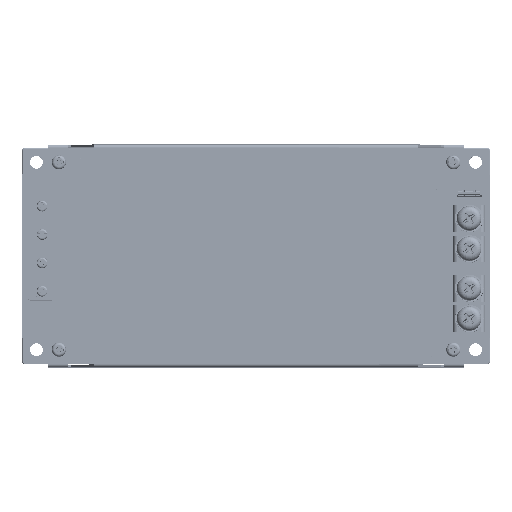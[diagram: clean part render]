
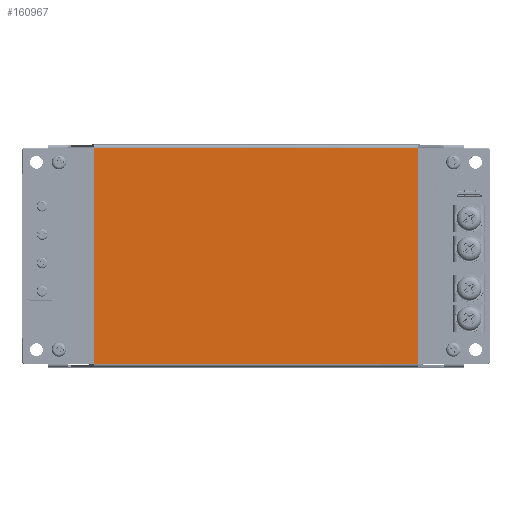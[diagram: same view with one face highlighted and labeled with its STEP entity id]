
A CAD part, top view. The second image highlights one B-rep face of the part: STEP entity #160967.
In plain terms, the highlighted planar face has unit normal (0, 0, 1).
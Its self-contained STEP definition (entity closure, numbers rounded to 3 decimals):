
#1670 = AXIS2_PLACEMENT_3D ( 'NONE', #53763, #98901, #129642 ) ;
#6699 = CARTESIAN_POINT ( 'NONE',  ( 44.777, -23.075, 21.8 ) ) ;
#16645 = LINE ( 'NONE', #79154, #57239 ) ;
#24018 = FACE_OUTER_BOUND ( 'NONE', #71155, .T. ) ;
#27858 = VERTEX_POINT ( 'NONE', #120982 ) ;
#33927 = EDGE_CURVE ( 'NONE', #176258, #112116, #130699, .T. ) ;
#37798 = VECTOR ( 'NONE', #164441, 1000. ) ;
#52607 = CARTESIAN_POINT ( 'NONE',  ( -69.513, -22.875, 21.8 ) ) ;
#53763 = CARTESIAN_POINT ( 'NONE',  ( -69.423, -23.075, 21.8 ) ) ;
#57239 = VECTOR ( 'NONE', #60762, 1000. ) ;
#60762 = DIRECTION ( 'NONE',  ( -1., 0., 0. ) ) ;
#68006 = LINE ( 'NONE', #52607, #76858 ) ;
#71155 = EDGE_LOOP ( 'NONE', ( #113281, #165699, #73395, #156330 ) ) ;
#73395 = ORIENTED_EDGE ( 'NONE', *, *, #92920, .F. ) ;
#76858 = VECTOR ( 'NONE', #130495, 1000. ) ;
#79154 = CARTESIAN_POINT ( 'NONE',  ( 44.866, 53.285, 21.8 ) ) ;
#82519 = PLANE ( 'NONE',  #1670 ) ;
#86924 = CARTESIAN_POINT ( 'NONE',  ( 44.777, 53.285, 21.8 ) ) ;
#92920 = EDGE_CURVE ( 'NONE', #99053, #27858, #177285, .T. ) ;
#95700 = EDGE_CURVE ( 'NONE', #112116, #27858, #16645, .T. ) ;
#98901 = DIRECTION ( 'NONE',  ( 0., 0., 1. ) ) ;
#99053 = VERTEX_POINT ( 'NONE', #150332 ) ;
#109990 = CARTESIAN_POINT ( 'NONE',  ( -69.423, -23.075, 21.8 ) ) ;
#112116 = VERTEX_POINT ( 'NONE', #86924 ) ;
#113281 = ORIENTED_EDGE ( 'NONE', *, *, #33927, .T. ) ;
#120982 = CARTESIAN_POINT ( 'NONE',  ( -69.423, 53.285, 21.8 ) ) ;
#129642 = DIRECTION ( 'NONE',  ( 0., -1., 0. ) ) ;
#130495 = DIRECTION ( 'NONE',  ( 1., 0., 0. ) ) ;
#130699 = LINE ( 'NONE', #6699, #37798 ) ;
#136064 = VECTOR ( 'NONE', #138715, 1000. ) ;
#138715 = DIRECTION ( 'NONE',  ( 0., 1., 0. ) ) ;
#150332 = CARTESIAN_POINT ( 'NONE',  ( -69.423, -22.875, 21.8 ) ) ;
#156330 = ORIENTED_EDGE ( 'NONE', *, *, #164896, .T. ) ;
#159167 = CARTESIAN_POINT ( 'NONE',  ( 44.777, -22.875, 21.8 ) ) ;
#160967 = ADVANCED_FACE ( 'NONE', ( #24018 ), #82519, .T. ) ;
#164441 = DIRECTION ( 'NONE',  ( 0., 1., 0. ) ) ;
#164896 = EDGE_CURVE ( 'NONE', #99053, #176258, #68006, .T. ) ;
#165699 = ORIENTED_EDGE ( 'NONE', *, *, #95700, .T. ) ;
#176258 = VERTEX_POINT ( 'NONE', #159167 ) ;
#177285 = LINE ( 'NONE', #109990, #136064 ) ;
